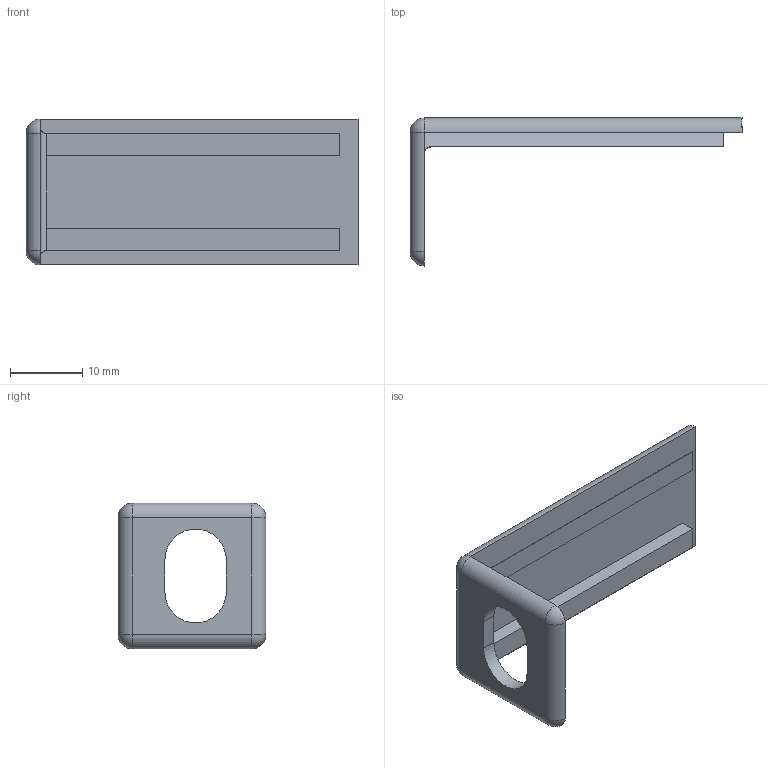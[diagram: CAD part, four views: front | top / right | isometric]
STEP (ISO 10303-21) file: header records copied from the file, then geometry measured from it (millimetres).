
FILE_DESCRIPTION(/* description */ ('Alibre Inc.'),/* implementation_level */ '2;1');
FILE_NAME(/* name */ 'export0',/* time_stamp */ '2018-08-03T14:55:35-04:00',/* author */ (''),/* organization */ (''),/* preprocessor_version */ 'ST-DEVELOPER v17',/* originating_system */ 'Alibre',/* authorisation */ '');
FILE_SCHEMA (('AUTOMOTIVE_DESIGN'));
Length unit declared in the file: millimetre
Bounding box: 46 x 20.5 x 20.2 mm (x, y, z)
Volume: 2581.6 mm3; surface area: 3235.6 mm2
Topology: 1 solids, 1 shells, 54 faces, 145 edges, 90 vertices
Faces by surface type: cylinder 33, plane 17, sphere 4
Entity records: 1627 total; most frequent: ORIENTED_EDGE 282, CARTESIAN_POINT 278, DIRECTION 269, EDGE_CURVE 141, AXIS2_PLACEMENT_3D 96, VECTOR 92, LINE 92, VERTEX_POINT 90
